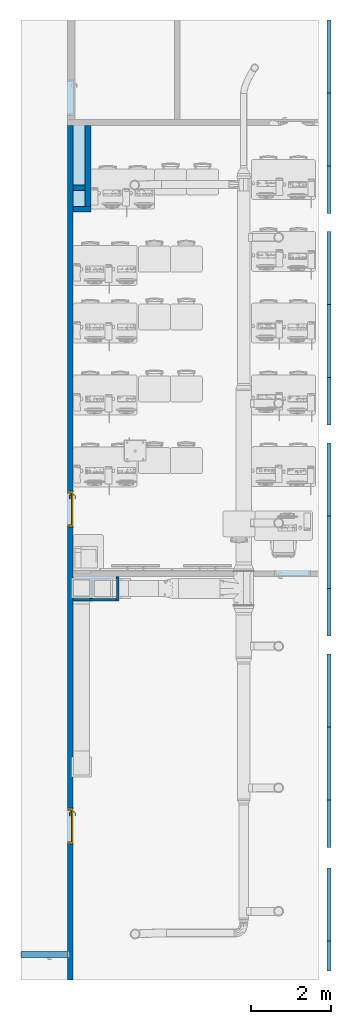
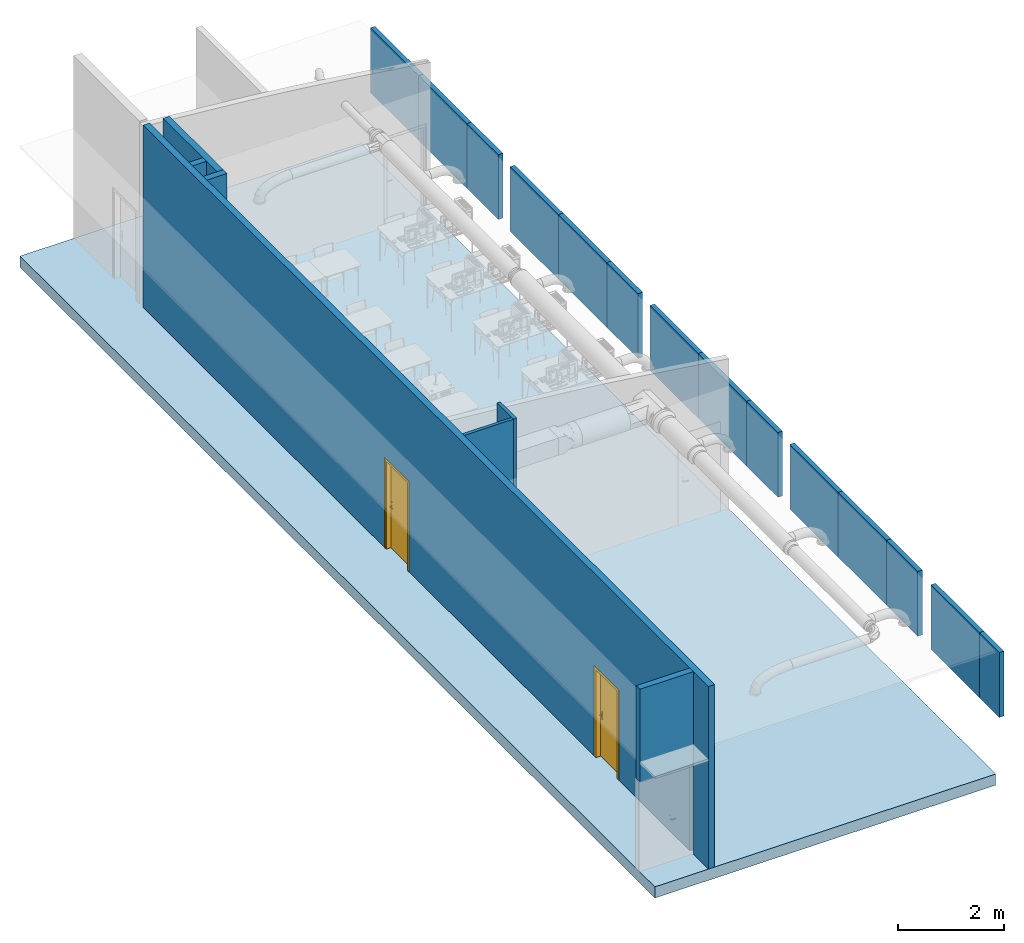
# One storey, part 1 of 31: 14 plates, 7 walls, 2 doors, 1 slab, 5 openings, 5 elements without a shape of their own.
"""IFC2X3 building model written with IfcOpenShell, lengths in millimetres."""

from ifc_helpers import new_model, entity, si_unit, converted_unit, derived_unit, direction, frame, frame_2d, origin, origin_2d_with_axis, place, context, subcontext, project, spatial, rectangle, extrude, faceted_brep, source, transform, mapped, material, material_list, layer, layer_set, layer_usage, type_object, type_shapes, element, fill, aggregate, save


model = new_model("IFC2X3")

# Units and contexts
model_context = context("Model", 3, precision=0.01, world=origin(), true_north=direction((6.123031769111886e-17, 1.0)))
body_context = subcontext(model_context, "Body", "Model", "MODEL_VIEW")
ifc_project = project(units=[si_unit("LENGTHUNIT", "METRE", prefix="MILLI"), si_unit("AREAUNIT", "SQUARE_METRE"), si_unit("VOLUMEUNIT", "CUBIC_METRE"), converted_unit("PLANEANGLEUNIT", "DEGREE", entity("IfcRatioMeasure", 0.017453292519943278), si_unit("PLANEANGLEUNIT", "RADIAN"), dimensions=[0, 0, 0, 0, 0, 0, 0]), si_unit("MASSUNIT", "GRAM", prefix="KILO"), derived_unit("MASSDENSITYUNIT", [(si_unit("MASSUNIT", "GRAM", prefix="KILO"), 1), (si_unit("LENGTHUNIT", "METRE"), -3)]), derived_unit("MOMENTOFINERTIAUNIT", [(si_unit("LENGTHUNIT", "METRE"), 4)]), si_unit("TIMEUNIT", "SECOND"), si_unit("FREQUENCYUNIT", "HERTZ"), si_unit("THERMODYNAMICTEMPERATUREUNIT", "DEGREE_CELSIUS"), derived_unit("THERMALTRANSMITTANCEUNIT", [(si_unit("MASSUNIT", "GRAM", prefix="KILO"), 1), (si_unit("THERMODYNAMICTEMPERATUREUNIT", "KELVIN"), -1), (si_unit("TIMEUNIT", "SECOND"), -3)]), derived_unit("VOLUMETRICFLOWRATEUNIT", [(si_unit("LENGTHUNIT", "METRE"), 3), (si_unit("TIMEUNIT", "SECOND"), -1)]), derived_unit("MASSFLOWRATEUNIT", [(si_unit("MASSUNIT", "GRAM", prefix="KILO"), 1), (si_unit("TIMEUNIT", "SECOND"), -1)]), derived_unit("ROTATIONALFREQUENCYUNIT", [(si_unit("TIMEUNIT", "SECOND"), -1)]), si_unit("ELECTRICCURRENTUNIT", "AMPERE"), si_unit("ELECTRICVOLTAGEUNIT", "VOLT"), si_unit("POWERUNIT", "WATT"), si_unit("FORCEUNIT", "NEWTON", prefix="KILO"), si_unit("ILLUMINANCEUNIT", "LUX"), si_unit("LUMINOUSFLUXUNIT", "LUMEN"), si_unit("LUMINOUSINTENSITYUNIT", "CANDELA"), derived_unit("USERDEFINED", [(si_unit("MASSUNIT", "GRAM", prefix="KILO"), -1), (si_unit("LENGTHUNIT", "METRE"), -2), (si_unit("TIMEUNIT", "SECOND"), 3), (si_unit("LUMINOUSFLUXUNIT", "LUMEN"), 1)]), derived_unit("SOUNDPOWERUNIT", [(si_unit("MASSUNIT", "GRAM", prefix="KILO"), 1), (si_unit("LENGTHUNIT", "METRE"), 2), (si_unit("TIMEUNIT", "SECOND"), -3)]), derived_unit("SOUNDPRESSUREUNIT", [(si_unit("MASSUNIT", "GRAM", prefix="KILO"), 1), (si_unit("LENGTHUNIT", "METRE"), -1), (si_unit("TIMEUNIT", "SECOND"), -2)]), derived_unit("LINEARVELOCITYUNIT", [(si_unit("LENGTHUNIT", "METRE"), 1), (si_unit("TIMEUNIT", "SECOND"), -1)]), si_unit("PRESSUREUNIT", "PASCAL"), derived_unit("USERDEFINED", [(si_unit("LENGTHUNIT", "METRE"), -2), (si_unit("MASSUNIT", "GRAM", prefix="KILO"), 1), (si_unit("TIMEUNIT", "SECOND"), -2)]), derived_unit("LINEARFORCEUNIT", [(si_unit("MASSUNIT", "GRAM", prefix="KILO"), 1), (si_unit("LENGTHUNIT", "METRE"), 1), (si_unit("TIMEUNIT", "SECOND"), -2), (si_unit("LENGTHUNIT", "METRE"), -1)]), derived_unit("PLANARFORCEUNIT", [(si_unit("MASSUNIT", "GRAM", prefix="KILO"), 1), (si_unit("LENGTHUNIT", "METRE"), 1), (si_unit("TIMEUNIT", "SECOND"), -2), (si_unit("LENGTHUNIT", "METRE"), -2)])], contexts=[model_context])

# Site, building, storey
site_placement = place(None, origin())
site = spatial("IfcSite", under=ifc_project, at=site_placement, Name="Default", CompositionType="ELEMENT")
building_placement = place(site_placement, origin())
building = spatial("IfcBuilding", under=site, at=building_placement, CompositionType="ELEMENT")
storey_placement = place(building_placement, frame((0.0, 0.0, 3880.0)))
storey = spatial("IfcBuildingStorey", under=building, at=storey_placement, Name="Niveau 1", CompositionType="ELEMENT", Elevation=3880.0)

# Slab
ifc_material_1 = material(Name="Sol par défaut")
ifc_layer_1 = layer(ifc_material_1, 260.0)
ifc_layer_set_1 = layer_set([ifc_layer_1], Name="Sol:Générique 260 mm")
ifc_layer_usage_1 = layer_usage(ifc_layer_set_1, "AXIS3", "POSITIVE", 0.0)
slab_type = type_object("IfcSlabType", Name="Sol:Générique 260 mm", PredefinedType="FLOOR", material=ifc_layer_set_1)
slab_placement = place(storey_placement, origin())
element("IfcSlab", 1, at=slab_placement, inside=storey, type_object=slab_type, material=ifc_layer_usage_1, Name="Sol:Générique 260 mm", ObjectType="Sol:Générique 260 mm", PredefinedType="FLOOR", context=body_context, shape_type="SweptSolid", body=[
    extrude(rectangle(XDim=24070.000000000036, YDim=7459.999999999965, at=frame_2d((0.0, -1.1368683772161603e-12), x_axis=(1.0, 0.0))), frame((-4050.0, -12355.0, 0.0), z_axis=(0.0, 0.0, -1.0), x_axis=(0.0, 1.0, 0.0)), (0.0, 0.0, 1.0), 259.9999999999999),
])

# Curtain wall, plates
curtain_wall_type = type_object("IfcCurtainWallType", Name="Mur-rideau:Vitrage extérieur", PredefinedType="NOTDEFINED")
curtain_wall_1_placement = place(storey_placement, frame((0.0, 0.0, -3880.0)))
curtain_wall_1 = element("IfcCurtainWall", 2, at=curtain_wall_1_placement, inside=storey, type_object=curtain_wall_type, Name="Mur-rideau:Vitrage extérieur", ObjectType="Mur-rideau:Vitrage extérieur")
ifc_material_2 = material(Name="Verre")
plate_type_1 = type_object("IfcPlateType", Name="Panneau système:Vitré", PredefinedType="CURTAIN_PANEL", material=ifc_material_2)
shared_shape_1 = source(origin(), body_context, "Body", "SweptSolid", [
    extrude(rectangle(XDim=100.0, YDim=1830.0000003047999, at=origin_2d_with_axis()), frame((0.0, 100.0, 0.0), z_axis=(0.0, 0.0, 1.0), x_axis=(0.0, 1.0, 0.0)), (0.0, 0.0, 1.0), 1500.0),
])
type_shapes(plate_type_1, [shared_shape_1])
plate_1_placement = place(curtain_wall_1_placement, frame((-160.0, -1235.0, 4980.0), z_axis=(0.0, 0.0, 1.0), x_axis=(0.0, -1.0, 0.0)))
plate_1 = element("IfcPlate", 3, at=plate_1_placement, type_object=plate_type_1, material=ifc_material_2, Name="Panneau système:Vitré", ObjectType="Panneau système:Vitré", context=body_context, shape_type="MappedRepresentation", body=[
    mapped(shared_shape_1, transform((0.0, 0.0, 0.0), scale=1.0)),
])
plate_2_placement = place(curtain_wall_1_placement, frame((-160.0, -3065.0, 4980.0), z_axis=(0.0, 0.0, 1.0), x_axis=(0.0, -1.0, 0.0)))
plate_2 = element("IfcPlate", 4, at=plate_2_placement, type_object=plate_type_1, material=ifc_material_2, Name="Panneau système:Vitré", ObjectType="Panneau système:Vitré", context=body_context, shape_type="MappedRepresentation", body=[
    mapped(shared_shape_1, transform((0.0, 0.0, 0.0), scale=1.0)),
])

curtain_wall_2_placement = place(storey_placement, frame((0.0, 0.0, -3880.0)))
curtain_wall_2 = element("IfcCurtainWall", 5, at=curtain_wall_2_placement, inside=storey, type_object=curtain_wall_type, Name="Mur-rideau:Vitrage extérieur", ObjectType="Mur-rideau:Vitrage extérieur")
plate_3_placement = place(curtain_wall_2_placement, frame((-160.0, -6535.0, 4980.0), z_axis=(0.0, 0.0, 1.0), x_axis=(0.0, -1.0, 0.0)))
plate_3 = element("IfcPlate", 6, at=plate_3_placement, type_object=plate_type_1, material=ifc_material_2, Name="Panneau système:Vitré", ObjectType="Panneau système:Vitré", context=body_context, shape_type="MappedRepresentation", body=[
    mapped(shared_shape_1, transform((0.0, 0.0, 0.0), scale=1.0)),
])
plate_4_placement = place(curtain_wall_2_placement, frame((-160.0, -8365.0, 4980.0), z_axis=(0.0, 0.0, 1.0), x_axis=(0.0, -1.0, 0.0)))
plate_4 = element("IfcPlate", 7, at=plate_4_placement, type_object=plate_type_1, material=ifc_material_2, Name="Panneau système:Vitré", ObjectType="Panneau système:Vitré", context=body_context, shape_type="MappedRepresentation", body=[
    mapped(shared_shape_1, transform((0.0, 0.0, 0.0), scale=1.0)),
])

curtain_wall_3_placement = place(storey_placement, frame((0.0, 0.0, -3880.0)))
curtain_wall_3 = element("IfcCurtainWall", 8, at=curtain_wall_3_placement, inside=storey, type_object=curtain_wall_type, Name="Mur-rideau:Vitrage extérieur", ObjectType="Mur-rideau:Vitrage extérieur")
plate_5_placement = place(curtain_wall_3_placement, frame((-160.0, -11835.0, 4980.0), z_axis=(0.0, 0.0, 1.0), x_axis=(0.0, -1.0, 0.0)))
plate_5 = element("IfcPlate", 9, at=plate_5_placement, type_object=plate_type_1, material=ifc_material_2, Name="Panneau système:Vitré", ObjectType="Panneau système:Vitré", context=body_context, shape_type="MappedRepresentation", body=[
    mapped(shared_shape_1, transform((0.0, 0.0, 0.0), scale=1.0)),
])
plate_6_placement = place(curtain_wall_3_placement, frame((-160.0, -13665.0, 4980.0), z_axis=(0.0, 0.0, 1.0), x_axis=(0.0, -1.0, 0.0)))
plate_6 = element("IfcPlate", 10, at=plate_6_placement, type_object=plate_type_1, material=ifc_material_2, Name="Panneau système:Vitré", ObjectType="Panneau système:Vitré", context=body_context, shape_type="MappedRepresentation", body=[
    mapped(shared_shape_1, transform((0.0, 0.0, 0.0), scale=1.0)),
])

curtain_wall_4_placement = place(storey_placement, frame((0.0, 0.0, -3880.0)))
curtain_wall_4 = element("IfcCurtainWall", 11, at=curtain_wall_4_placement, inside=storey, type_object=curtain_wall_type, Name="Mur-rideau:Vitrage extérieur", ObjectType="Mur-rideau:Vitrage extérieur")
plate_7_placement = place(curtain_wall_4_placement, frame((-160.0, -17135.0, 4980.0), z_axis=(0.0, 0.0, 1.0), x_axis=(0.0, -1.0, 0.0)))
plate_7 = element("IfcPlate", 12, at=plate_7_placement, type_object=plate_type_1, material=ifc_material_2, Name="Panneau système:Vitré", ObjectType="Panneau système:Vitré", context=body_context, shape_type="MappedRepresentation", body=[
    mapped(shared_shape_1, transform((0.0, 0.0, 0.0), scale=1.0)),
])
plate_8_placement = place(curtain_wall_4_placement, frame((-160.0, -18965.0, 4980.0), z_axis=(0.0, 0.0, 1.0), x_axis=(0.0, -1.0, 0.0)))
plate_8 = element("IfcPlate", 13, at=plate_8_placement, type_object=plate_type_1, material=ifc_material_2, Name="Panneau système:Vitré", ObjectType="Panneau système:Vitré", context=body_context, shape_type="MappedRepresentation", body=[
    mapped(shared_shape_1, transform((0.0, 0.0, 0.0), scale=1.0)),
])

# Curtain wall, plate
curtain_wall_5_placement = place(storey_placement, frame((0.0, 0.0, -3880.0)))
curtain_wall_5 = element("IfcCurtainWall", 14, at=curtain_wall_5_placement, inside=storey, type_object=curtain_wall_type, Name="Mur-rideau:Vitrage extérieur", ObjectType="Mur-rideau:Vitrage extérieur")
plate_9_placement = place(curtain_wall_5_placement, frame((-160.0, -22491.120483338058, 4980.0), z_axis=(0.0, 0.0, 1.0), x_axis=(0.0, -1.0, 0.0)))
plate_9 = element("IfcPlate", 15, at=plate_9_placement, type_object=plate_type_1, material=ifc_material_2, Name="Panneau système:Vitré", ObjectType="Panneau système:Vitré", context=body_context, shape_type="MappedRepresentation", body=[
    mapped(shared_shape_1, transform((0.0, 0.0, 0.0), scale=1.0)),
])

# Plate
plate_type_2 = type_object("IfcPlateType", Name="Panneau système:Vitré", PredefinedType="CURTAIN_PANEL", material=ifc_material_2)
shared_shape_2 = source(origin(), body_context, "Body", "SweptSolid", [
    extrude(rectangle(XDim=100.0, YDim=1189.9999996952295, at=origin_2d_with_axis()), frame((0.0, 100.0, 0.0), z_axis=(0.0, 0.0, 1.0), x_axis=(0.0, 1.0, 0.0)), (0.0, 0.0, 1.0), 1500.0),
])
type_shapes(plate_type_2, [shared_shape_2])
plate_10_placement = place(curtain_wall_1_placement, frame((-160.0, -4575.0, 4980.0), z_axis=(0.0, 0.0, 1.0), x_axis=(0.0, -1.0, 0.0)))
plate_10 = element("IfcPlate", 16, at=plate_10_placement, type_object=plate_type_2, material=ifc_material_2, Name="Panneau système:Vitré", ObjectType="Panneau système:Vitré", context=body_context, shape_type="MappedRepresentation", body=[
    mapped(shared_shape_2, transform((0.0, 0.0, 0.0), scale=1.0)),
])

aggregate(curtain_wall_1, [plate_1, plate_2, plate_10])

plate_11_placement = place(curtain_wall_2_placement, frame((-160.0, -9875.0, 4980.0), z_axis=(0.0, 0.0, 1.0), x_axis=(0.0, -1.0, 0.0)))
plate_11 = element("IfcPlate", 17, at=plate_11_placement, type_object=plate_type_2, material=ifc_material_2, Name="Panneau système:Vitré", ObjectType="Panneau système:Vitré", context=body_context, shape_type="MappedRepresentation", body=[
    mapped(shared_shape_2, transform((0.0, 0.0, 0.0), scale=1.0)),
])

aggregate(curtain_wall_2, [plate_3, plate_4, plate_11])

plate_12_placement = place(curtain_wall_3_placement, frame((-160.0, -15175.0, 4980.0), z_axis=(0.0, 0.0, 1.0), x_axis=(0.0, -1.0, 0.0)))
plate_12 = element("IfcPlate", 18, at=plate_12_placement, type_object=plate_type_2, material=ifc_material_2, Name="Panneau système:Vitré", ObjectType="Panneau système:Vitré", context=body_context, shape_type="MappedRepresentation", body=[
    mapped(shared_shape_2, transform((0.0, 0.0, 0.0), scale=1.0)),
])

aggregate(curtain_wall_3, [plate_5, plate_6, plate_12])

plate_13_placement = place(curtain_wall_4_placement, frame((-160.0, -20475.0, 4980.0), z_axis=(0.0, 0.0, 1.0), x_axis=(0.0, -1.0, 0.0)))
plate_13 = element("IfcPlate", 19, at=plate_13_placement, type_object=plate_type_2, material=ifc_material_2, Name="Panneau système:Vitré", ObjectType="Panneau système:Vitré", context=body_context, shape_type="MappedRepresentation", body=[
    mapped(shared_shape_2, transform((0.0, 0.0, 0.0), scale=1.0)),
])

aggregate(curtain_wall_4, [plate_7, plate_8, plate_13])

plate_type_3 = type_object("IfcPlateType", Name="Panneau système:Vitré", PredefinedType="CURTAIN_PANEL", material=ifc_material_2)
shared_shape_3 = source(origin(), body_context, "Body", "SweptSolid", [
    extrude(rectangle(XDim=100.0, YDim=760.805999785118, at=origin_2d_with_axis()), frame((0.0, 100.0, 0.0), z_axis=(0.0, 0.0, 1.0), x_axis=(0.0, 1.0, 0.0)), (0.0, 0.0, 1.0), 1500.0),
])
type_shapes(plate_type_3, [shared_shape_3])
plate_14_placement = place(curtain_wall_5_placement, frame((-160.0, -23786.523483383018, 4980.0), z_axis=(0.0, 0.0, 1.0), x_axis=(0.0, -1.0, 0.0)))
plate_14 = element("IfcPlate", 20, at=plate_14_placement, type_object=plate_type_3, material=ifc_material_2, Name="Panneau système:Vitré", ObjectType="Panneau système:Vitré", context=body_context, shape_type="MappedRepresentation", body=[
    mapped(shared_shape_3, transform((0.0, 0.0, 0.0), scale=1.0)),
])

aggregate(curtain_wall_5, [plate_9, plate_14])

# Wall, openings, doors
ifc_material_3 = material(Name="Peinture")
ifc_layer_2 = layer(ifc_material_3, 140.0)
ifc_layer_set_2 = layer_set([ifc_layer_2], Name="Mur de base:Générique - 140 mm")
ifc_layer_usage_2 = layer_usage(ifc_layer_set_2, "AXIS2", "POSITIVE", -69.99999999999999)
wall_type_1 = type_object("IfcWallType", Name="Mur de base:Générique - 140 mm", PredefinedType="STANDARD", material=ifc_layer_set_2)
wall_1_placement = place(storey_placement, frame((-6540.0, -2960.0, 0.0), z_axis=(0.0, 0.0, 1.0), x_axis=(0.0, -1.0, 0.0)))
wall_1 = element("IfcWallStandardCase", 21, at=wall_1_placement, inside=storey, type_object=wall_type_1, material=ifc_layer_usage_2, Name="Mur de base:Générique - 140 mm", ObjectType="Mur de base:Générique - 140 mm", context=body_context, shape_type="SweptSolid", body=[
    extrude(rectangle(XDim=21429.999999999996, YDim=139.99999999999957, at=frame_2d((10714.999999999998, 5.400124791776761e-13), x_axis=(1.0, 0.0))), origin(), (0.0, 0.0, 1.0), 4225.000000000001),
])
opening_1_placement = place(wall_1_placement, origin())
element("IfcOpeningElement", 22, at=opening_1_placement, cuts=wall_1, Name="Mur de base:Générique - 140 mm", ObjectType="Opening", context=body_context, shape_type="SweptSolid", body=[
    extrude(rectangle(XDim=2075.000000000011, YDim=139.9999999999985, at=frame_2d((2.1600499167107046e-12, 3.410605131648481e-13), x_axis=(0.0, 1.0))), frame((20790.0, -1250.0, 1037.5000000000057), z_axis=(0.0, 1.0, 0.0), x_axis=(-1.0, 0.0, 0.0)), (0.0, 0.0, 1.0), 1230.0000000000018),
])
opening_2_placement = place(wall_1_placement, frame((17120.0, -70.0, 0.0)))
opening_2 = element("IfcOpeningElement", 23, at=opening_2_placement, cuts=wall_1, Name="Int. Simple:PP (0.83m x 2.04m):1", ObjectType="Opening", context=body_context, shape_type="SweptSolid", body=[
    extrude(rectangle(XDim=2075.0, YDim=900.0000000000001, at=frame_2d((1037.5, 450.00000000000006), x_axis=(1.0, 0.0))), frame((0.0, 0.0, 0.0), z_axis=(0.0, 1.0, 0.0), x_axis=(0.0, 0.0, 1.0)), (0.0, 0.0, 1.0), 139.99999999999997),
])
opening_3_placement = place(wall_1_placement, frame((9170.0, -70.0, 0.0)))
opening_3 = element("IfcOpeningElement", 24, at=opening_3_placement, cuts=wall_1, Name="Int. Simple:PP (0.83m x 2.04m):1", ObjectType="Opening", context=body_context, shape_type="SweptSolid", body=[
    extrude(rectangle(XDim=2075.0, YDim=900.0000000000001, at=frame_2d((1037.5, 450.00000000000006), x_axis=(1.0, 0.0))), frame((0.0, 0.0, 0.0), z_axis=(0.0, 1.0, 0.0), x_axis=(0.0, 0.0, 1.0)), (0.0, 0.0, 1.0), 139.99999999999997),
])
ifc_material_4 = material(Name="Finition Peinture - Blanc satiné")
ifc_material_5 = material(Name="Bois - Panneau de porte")
ifc_material_6 = material(Name="Bois - Cadre de porte")
ifc_material_list_1 = material_list([ifc_material_4, ifc_material_4, ifc_material_4, ifc_material_4, ifc_material_5, ifc_material_6, ifc_material_6, ifc_material_6])
ifc_material_list_2 = material_list([ifc_material_4, ifc_material_4, ifc_material_4, ifc_material_4, ifc_material_5, ifc_material_6, ifc_material_6, ifc_material_6])
door_style = type_object("IfcDoorStyle", Name="Int. Simple:PP (0.83m x 2.04m)", ConstructionType="NOTDEFINED", OperationType="SINGLE_SWING_RIGHT", ParameterTakesPrecedence=False, Sizeable=False, material=ifc_material_list_2)
shared_shape_4 = source(origin(), body_context, "Body", "Brep", [
    faceted_brep([(895.0, -5.0, 870.0), (895.0, -5.0, 1080.0), (885.3527618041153, -5.0, 1083.996016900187), (875.0, -5.0, 1085.3589838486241), (864.6472381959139, -5.0, 1083.9960169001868), (855.0, -5.0, 1080.0), (855.0, -5.0, 870.0), (864.6472381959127, -5.0, 866.003983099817), (875.0, -5.0, 864.6410161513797), (885.3527618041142, -5.0, 866.003983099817), (895.0, 0.0, 1080.0), (895.0, 0.0, 870.0), (885.3527618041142, 0.0, 866.003983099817), (875.0, 0.0, 864.6410161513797), (864.6472381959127, 0.0, 866.003983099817), (855.0, 0.0, 870.0), (855.0, 0.0, 1080.0), (864.6472381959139, 0.0, 1083.9960169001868), (875.0, 0.0, 1085.3589838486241), (885.3527618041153, 0.0, 1083.996016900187)], [[[0, 1, 2, 3, 4, 5, 6, 7, 8, 9]], [[10, 11, 12, 13, 14, 15, 16, 17, 18, 19]], [[9, 12, 11, 0]], [[8, 13, 12, 9]], [[7, 14, 13, 8]], [[7, 6, 15, 14]], [[15, 6, 5, 16]], [[4, 17, 16, 5]], [[3, 18, 17, 4]], [[2, 19, 18, 3]], [[2, 1, 10, 19]], [[11, 10, 1, 0]]]),
    faceted_brep([(895.0, 40.0, 870.0), (895.0, 40.0, 1080.0), (885.3527618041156, 40.0, 1083.9960169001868), (875.0, 40.0, 1085.3589838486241), (864.6472381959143, 40.0, 1083.996016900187), (855.0, 40.0, 1080.0), (855.0, 40.0, 870.0), (864.6472381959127, 40.0, 866.003983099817), (875.0, 40.0, 864.6410161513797), (885.3527618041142, 40.0, 866.0039830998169), (875.0, 45.0, 1085.3589838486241), (885.3527618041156, 45.0, 1083.9960169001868), (895.0, 45.0, 1080.0), (895.0, 45.0, 870.0), (885.3527618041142, 45.0, 866.0039830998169), (875.0, 45.0, 864.6410161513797), (864.6472381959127, 45.0, 866.003983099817), (855.0, 45.0, 870.0), (855.0, 45.0, 1080.0), (864.6472381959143, 45.0, 1083.996016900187)], [[[0, 1, 2, 3, 4, 5, 6, 7, 8, 9]], [[10, 11, 12, 13, 14, 15, 16, 17, 18, 19]], [[4, 19, 18, 5]], [[3, 10, 19, 4]], [[2, 11, 10, 3]], [[2, 1, 12, 11]], [[13, 12, 1, 0]], [[9, 14, 13, 0]], [[8, 15, 14, 9]], [[7, 16, 15, 8]], [[7, 6, 17, 16]], [[17, 6, 5, 18]]]),
    faceted_brep([(872.9747013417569, -5.0, 1007.7804408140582), (877.0252986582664, -5.0, 1007.7804408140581), (881.0, -5.0, 1007.0), (881.0, -5.0, 993.0), (877.0252986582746, -5.0, 992.21955918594), (872.9747013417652, -5.0, 992.2195591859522), (869.0, -5.0, 993.0), (869.0, -5.0, 1007.0), (877.0252986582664, -31.00457549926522, 1007.7804408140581), (881.0, -32.65095070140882, 1007.0), (872.9747013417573, -29.326763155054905, 1007.7804408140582), (859.298602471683, -43.00286202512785, 1007.7804408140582), (860.9764148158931, -47.053459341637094, 1007.7804408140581), (869.0, -27.68038795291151, 1007.0), (869.0, -27.680387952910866, 993.0), (872.9747013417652, -29.326763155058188, 992.2195591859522), (877.0252986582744, -31.004575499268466, 992.21955918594), (860.9764148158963, -47.053459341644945, 992.21955918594), (859.2986024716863, -43.00286202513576, 992.2195591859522), (881.0, -32.650950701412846, 993.0), (862.6227900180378, -51.028160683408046, 1007.0), (857.6522272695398, -39.02816068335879, 1007.0), (857.6522272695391, -39.02816068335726, 993.0), (862.6227900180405, -51.02816068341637, 993.0), (774.9813593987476, -51.0281606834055, 1007.0), (774.9813593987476, -47.05345934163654, 1007.7804408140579), (774.9813593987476, -43.002862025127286, 1007.780440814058), (774.9813593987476, -39.028160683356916, 1007.0), (774.9813593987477, -39.028160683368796, 993.0), (774.9813593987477, -43.00286202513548, 992.219559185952), (774.9813593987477, -47.05345934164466, 992.2195591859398), (774.9813593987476, -51.028160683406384, 993.0), (817.13998091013, -45.028160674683, 1007.878686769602), (822.6923027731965, -51.028160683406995, 1007.0), (816.3167933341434, -39.028160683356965, 1007.0), (816.3167933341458, -39.028160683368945, 993.0), (817.1399811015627, -45.02816075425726, 992.1213132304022), (822.6923104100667, -51.02816068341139, 993.0)], [[[0, 1, 2, 3, 4, 5, 6, 7]], [[2, 1, 8, 9]], [[1, 0, 10, 11, 12, 8]], [[0, 7, 13, 10]], [[14, 13, 7, 6]], [[5, 15, 14, 6]], [[5, 4, 16, 17, 18, 15]], [[3, 19, 16, 4]], [[9, 19, 3, 2]], [[9, 8, 12, 20]], [[10, 13, 21, 11]], [[22, 21, 13, 14]], [[14, 15, 18, 22]], [[16, 19, 23, 17]], [[20, 23, 19, 9]], [[24, 25, 26, 27, 28, 29, 30, 31]], [[32, 25, 33]], [[33, 25, 24]], [[33, 20, 12]], [[11, 34, 32]], [[34, 11, 21]], [[27, 26, 34]], [[32, 26, 25]], [[32, 34, 26]], [[32, 33, 12]], [[11, 32, 12]], [[21, 22, 35, 28, 27, 34]], [[36, 29, 35]], [[30, 36, 37]], [[18, 35, 22]], [[29, 28, 35]], [[30, 37, 31]], [[37, 17, 23]], [[36, 17, 37]], [[36, 18, 17]], [[36, 35, 18]], [[29, 36, 30]], [[23, 20, 33, 24, 31, 37]]]),
    faceted_brep([(872.9747013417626, 45.0, 992.2195591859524), (877.0252986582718, 45.0, 992.2195591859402), (881.0, 45.0, 993.0), (881.0, 45.0, 1007.0), (877.0252986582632, 45.0, 1007.7804408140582), (872.9747013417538, 45.0, 1007.7804408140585), (869.0, 45.0, 1007.0), (869.0, 45.0, 993.0), (869.0, 67.48520450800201, 1007.0), (869.0, 67.48520450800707, 993.0), (872.9747013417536, 69.1315797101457, 1007.7804408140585), (877.0252986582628, 70.80939205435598, 1007.7804408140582), (860.8389061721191, 86.9957845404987, 1007.7804408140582), (859.161093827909, 82.94518722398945, 1007.7804408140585), (881.0, 72.45576725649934, 1007.0), (881.0, 72.45576725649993, 993.0), (877.025298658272, 70.80939205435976, 992.2195591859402), (872.9747013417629, 69.13157971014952, 992.2195591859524), (859.1610938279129, 82.94518722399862, 992.2195591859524), (860.8389061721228, 86.9957845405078, 992.2195591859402), (857.5147186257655, 78.9704858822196, 1007.0), (857.5147186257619, 78.97048588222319, 993.0), (862.4852813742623, 90.9704858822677, 1007.0), (862.4852813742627, 90.97048588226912, 993.0), (774.9542163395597, 82.94518722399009, 1007.7804408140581), (774.9542163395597, 86.99578454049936, 1007.780440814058), (774.9542163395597, 90.9704858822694, 1007.0), (774.9542163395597, 90.97048588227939, 993.0), (774.9542163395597, 86.99578454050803, 992.2195591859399), (774.9542163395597, 82.94518722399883, 992.2195591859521), (774.9542163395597, 78.97048588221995, 993.0), (774.9542163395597, 78.97048588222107, 1007.0), (816.2344674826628, 78.97048588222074, 1007.0), (816.2344794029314, 78.97048588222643, 993.0), (817.0576551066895, 84.97048589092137, 1007.8786867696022), (822.5547942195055, 90.97048588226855, 1007.0), (822.5547956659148, 90.97048588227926, 993.0), (817.0576548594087, 84.97048581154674, 992.1213132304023)], [[[0, 1, 2, 3, 4, 5, 6, 7]], [[8, 9, 7, 6]], [[5, 10, 8, 6]], [[5, 4, 11, 12, 13, 10]], [[3, 14, 11, 4]], [[14, 3, 2, 15]], [[2, 1, 16, 15]], [[1, 0, 17, 18, 19, 16]], [[0, 7, 9, 17]], [[20, 21, 9, 8]], [[8, 10, 13, 20]], [[14, 22, 12, 11]], [[23, 22, 14, 15]], [[15, 16, 19, 23]], [[17, 9, 21, 18]], [[24, 25, 26, 27, 28, 29, 30, 31]], [[21, 20, 32, 31, 30, 33]], [[34, 24, 32]], [[25, 34, 35]], [[13, 32, 20]], [[24, 31, 32]], [[25, 35, 26]], [[35, 12, 22]], [[34, 12, 35]], [[34, 13, 12]], [[34, 32, 13]], [[24, 34, 25]], [[22, 23, 36, 27, 26, 35]], [[37, 28, 36]], [[36, 28, 27]], [[36, 23, 19]], [[18, 33, 37]], [[33, 18, 21]], [[30, 29, 33]], [[37, 29, 28]], [[37, 33, 29]], [[37, 36, 19]], [[18, 37, 19]]]),
    faceted_brep([(935.0, 40.0, 2040.0), (935.0, 40.0, 0.0), (105.0, 40.0, 0.0), (105.0, 40.0, 2040.0), (935.0, 0.0, 2040.0), (105.0, 0.0, 2040.0), (105.0, 0.0, 0.0), (935.0, 0.0, 0.0)], [[[0, 1, 2, 3]], [[4, 5, 6, 7]], [[3, 5, 4, 0]], [[2, 6, 5, 3]], [[1, 7, 6, 2]], [[0, 4, 7, 1]]]),
    faceted_brep([(970.0, 0.0, 0.0), (935.0, 0.0, 0.0), (935.0, 40.0, 0.0), (920.0, 40.0, 0.0), (920.0, 140.0, 0.0), (970.0, 140.0, 0.0), (970.0, 140.0, 2075.0), (970.0, 0.0, 2075.0), (920.0, 140.0, 2025.0), (120.0, 140.0, 2025.0), (120.0, 140.0, 0.0), (70.0, 140.0, 0.0), (70.0, 140.0, 2075.0), (920.0, 40.0, 2025.0), (935.0, 40.0, 2040.0), (105.0, 40.0, 2040.0), (105.0, 40.0, 0.0), (120.0, 40.0, 0.0), (120.0, 40.0, 2025.0), (935.0, 0.0, 2040.0), (70.0, 0.0, 2075.0), (70.0, 0.0, 0.0), (105.0, 0.0, 0.0), (105.0, 0.0, 2040.0)], [[[0, 1, 2, 3, 4, 5]], [[5, 6, 7, 0]], [[4, 8, 9, 10, 11, 12, 6, 5]], [[3, 13, 8, 4]], [[2, 14, 15, 16, 17, 18, 13, 3]], [[1, 19, 14, 2]], [[0, 7, 20, 21, 22, 23, 19, 1]], [[12, 11, 21, 20]], [[21, 11, 10, 17, 16, 22]], [[18, 17, 10, 9]], [[23, 22, 16, 15]], [[6, 12, 20, 7]], [[13, 18, 9, 8]], [[19, 23, 15, 14]]]),
    faceted_brep([(955.0, 140.0, 0.0), (955.0, 145.0, 0.0), (985.0, 145.0, 0.0), (985.0, 140.0, 0.0), (985.0, 140.0, 2090.0), (55.0, 140.0, 2090.0), (55.0, 140.0, 0.0), (85.0, 140.0, 0.0), (85.0, 140.0, 2060.0), (955.0, 140.0, 2060.0), (985.0, 145.0, 2090.0), (955.0, 145.0, 2060.0), (85.0, 145.0, 2060.0), (85.0, 145.0, 0.0), (55.0, 145.0, 0.0), (55.0, 145.0, 2090.0)], [[[0, 1, 2, 3]], [[3, 4, 5, 6, 7, 8, 9, 0]], [[2, 10, 4, 3]], [[1, 11, 12, 13, 14, 15, 10, 2]], [[0, 9, 11, 1]], [[7, 6, 14, 13]], [[8, 7, 13, 12]], [[15, 14, 6, 5]], [[10, 15, 5, 4]], [[9, 8, 12, 11]]]),
    faceted_brep([(985.0, -5.0, 0.0), (985.0, -5.0, 2090.0), (55.0, -5.0, 2090.0), (55.0, -5.0, 0.0), (85.0, -5.0, 0.0), (85.0, -5.0, 2060.0), (955.0, -5.0, 2060.0), (955.0, -5.0, 0.0), (985.0, 0.0, 0.0), (985.0, 0.0, 2090.0), (955.0, 0.0, 0.0), (955.0, 0.0, 2060.0), (85.0, 0.0, 2060.0), (85.0, 0.0, 0.0), (55.0, 0.0, 0.0), (55.0, 0.0, 2090.0)], [[[0, 1, 2, 3, 4, 5, 6, 7]], [[8, 9, 1, 0]], [[10, 11, 12, 13, 14, 15, 9, 8]], [[7, 6, 11, 10]], [[5, 4, 13, 12]], [[15, 14, 3, 2]], [[9, 15, 2, 1]], [[6, 5, 12, 11]], [[4, 3, 14, 13]], [[7, 10, 8, 0]]]),
])
type_shapes(door_style, [shared_shape_4])
door_1_placement = place(opening_2_placement, frame((970.0, 140.0, 0.0), z_axis=(0.0, 0.0, 1.0), x_axis=(-1.0, 0.0, 0.0)))
door_1 = element("IfcDoor", 25, at=door_1_placement, inside=storey, type_object=door_style, material=ifc_material_list_1, Name="Int. Simple:PP (0.83m x 2.04m)", ObjectType="Int. Simple:PP (0.83m x 2.04m)", OverallHeight=2075.0, OverallWidth=899.999999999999, context=body_context, shape_type="MappedRepresentation", body=[
    mapped(shared_shape_4, transform((0.0, 0.0, 0.0), scale=1.0)),
])
fill(opening_2, door_1)
ifc_material_list_3 = material_list([ifc_material_4, ifc_material_5, ifc_material_6])
door_2_placement = place(opening_3_placement, frame((970.0, 140.0, 0.0), z_axis=(0.0, 0.0, 1.0), x_axis=(-1.0, 0.0, 0.0)))
door_2 = element("IfcDoor", 26, at=door_2_placement, inside=storey, type_object=door_style, material=ifc_material_list_3, Name="Int. Simple:PP (0.83m x 2.04m)", ObjectType="Int. Simple:PP (0.83m x 2.04m)", OverallHeight=2075.0, OverallWidth=900.0000000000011, context=body_context, shape_type="MappedRepresentation", body=[
    mapped(shared_shape_4, transform((0.0, 0.0, 0.0), scale=1.0)),
])
fill(opening_3, door_2)

# Wall, opening
ifc_layer_usage_3 = layer_usage(ifc_layer_set_2, "AXIS2", "POSITIVE", -69.99999999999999)
wall_2_placement = place(storey_placement, frame((-7780.0, -23750.0, 2075.0)))
wall_2 = element("IfcWallStandardCase", 27, at=wall_2_placement, inside=storey, type_object=wall_type_1, material=ifc_layer_usage_3, Name="Mur de base:Générique - 140 mm", ObjectType="Mur de base:Générique - 140 mm", context=body_context, shape_type="SweptSolid", body=[
    extrude(rectangle(XDim=1169.9999999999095, YDim=139.9999999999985, at=frame_2d((584.9999999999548, 1.6981971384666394e-12), x_axis=(1.0, 0.0))), origin(), (0.0, 0.0, 1.0), 2149.99999999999),
])
opening_4_placement = place(wall_2_placement, frame((1220.0, 70.0, -2075.0)))
element("IfcOpeningElement", 28, at=opening_4_placement, cuts=wall_2, Name="Int. Double:PP (1.16m x 2.04m):1", ObjectType="Opening", context=body_context, shape_type="SweptSolid", body=[
    extrude(rectangle(XDim=2075.00000000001, YDim=1230.0000000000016, at=frame_2d((1037.5000000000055, 615.000000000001), x_axis=(1.0, 0.0))), frame((0.0, 0.0, 0.0), z_axis=(0.0, -1.0, 0.0), x_axis=(0.0, 0.0, 1.0)), (0.0, 0.0, 1.0), 139.99999999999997),
])

# Walls
ifc_layer_usage_4 = layer_usage(ifc_layer_set_2, "AXIS2", "POSITIVE", -69.99999999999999)
wall_3_placement = place(storey_placement, frame((-6100.0, -2960.0, 0.0), z_axis=(0.0, 0.0, 1.0), x_axis=(0.0, -1.0, 0.0)))
element("IfcWallStandardCase", 29, at=wall_3_placement, inside=storey, type_object=wall_type_1, material=ifc_layer_usage_4, Name="Mur de base:Générique - 140 mm", ObjectType="Mur de base:Générique - 140 mm", context=body_context, shape_type="SweptSolid", body=[
    extrude(rectangle(XDim=2039.99999999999, YDim=140.00000000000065, at=frame_2d((1019.999999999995, 0.0), x_axis=(-1.0, 0.0))), origin(), (0.0, 0.0, 1.0), 4225.000000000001),
])
ifc_layer_usage_5 = layer_usage(ifc_layer_set_2, "AXIS2", "POSITIVE", -69.99999999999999)
wall_4_placement = place(storey_placement, frame((-6030.0, -5070.0, 0.0), z_axis=(0.0, 0.0, 1.0), x_axis=(-1.0, 0.0, 0.0)))
element("IfcWallStandardCase", 30, at=wall_4_placement, inside=storey, type_object=wall_type_1, material=ifc_layer_usage_5, Name="Mur de base:Générique - 140 mm", ObjectType="Mur de base:Générique - 140 mm", context=body_context, shape_type="SweptSolid", body=[
    extrude(rectangle(XDim=440.00000000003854, YDim=140.00000000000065, at=frame_2d((220.00000000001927, 2.5579538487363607e-13), x_axis=(-1.0, 0.0))), origin(), (0.0, 0.0, 1.0), 4225.000000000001),
])
ifc_layer_usage_6 = layer_usage(ifc_layer_set_2, "AXIS2", "POSITIVE", -69.99999999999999)
wall_5_placement = place(storey_placement, frame((-6170.0, -4530.0, 0.0), z_axis=(0.0, 0.0, 1.0), x_axis=(-1.0, 0.0, 0.0)))
element("IfcWallStandardCase", 31, at=wall_5_placement, inside=storey, type_object=wall_type_1, material=ifc_layer_usage_6, Name="Mur de base:Générique - 140 mm", ObjectType="Mur de base:Générique - 140 mm", context=body_context, shape_type="SweptSolid", body=[
    extrude(rectangle(XDim=300.000000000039, YDim=139.99999999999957, at=frame_2d((150.0000000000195, 0.0), x_axis=(-1.0, 0.0))), origin(), (0.0, 0.0, 1.0), 4225.000000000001),
])
ifc_layer_3 = layer(ifc_material_3, 70.0)
ifc_layer_set_3 = layer_set([ifc_layer_3], Name="Mur de base:Générique - 70 mm")
ifc_layer_usage_7 = layer_usage(ifc_layer_set_3, "AXIS2", "POSITIVE", -35.0)
wall_type_2 = type_object("IfcWallType", Name="Mur de base:Générique - 70 mm", PredefinedType="STANDARD", material=ifc_layer_set_3)
wall_6_placement = place(storey_placement, frame((-5355.0, -14270.0, 0.0), z_axis=(0.0, 0.0, 1.0), x_axis=(0.0, -1.0, 0.0)))
element("IfcWallStandardCase", 32, at=wall_6_placement, inside=storey, type_object=wall_type_2, material=ifc_layer_usage_7, Name="Mur de base:Générique - 70 mm", ObjectType="Mur de base:Générique - 70 mm", context=body_context, shape_type="SweptSolid", body=[
    extrude(rectangle(XDim=619.9999999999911, YDim=69.99999999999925, at=frame_2d((309.99999999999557, 7.105427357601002e-14), x_axis=(-1.0, 0.0))), origin(), (0.0, 0.0, 1.0), 4225.000000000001),
])

# Wall, opening
ifc_layer_usage_8 = layer_usage(ifc_layer_set_3, "AXIS2", "POSITIVE", -35.0)
wall_7_placement = place(storey_placement, frame((-5390.0, -14855.0, 0.0), z_axis=(0.0, 0.0, 1.0), x_axis=(-1.0, 0.0, 0.0)))
wall_7 = element("IfcWallStandardCase", 33, at=wall_7_placement, inside=storey, type_object=wall_type_2, material=ifc_layer_usage_8, Name="Mur de base:Générique - 70 mm", ObjectType="Mur de base:Générique - 70 mm", context=body_context, shape_type="SweptSolid", body=[
    extrude(rectangle(XDim=1080.0000000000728, YDim=69.99999999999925, at=frame_2d((540.0000000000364, 1.0800249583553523e-12), x_axis=(-1.0, 0.0))), origin(), (0.0, 0.0, 1.0), 4225.000000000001),
])
opening_5_placement = place(wall_7_placement, origin())
element("IfcOpeningElement", 34, at=opening_5_placement, cuts=wall_7, Name="Mur de base:Générique - 70 mm", ObjectType="Opening", context=body_context, shape_type="SweptSolid", body=[
    extrude(rectangle(XDim=400.00000000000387, YDim=400.0, at=frame_2d((0.0, 2.7000623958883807e-13), x_axis=(0.0, 1.0))), frame((837.2104115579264, -1559.0, 300.0), z_axis=(0.0, 1.0, 0.0), x_axis=(1.0, 0.0, 0.0)), (0.0, 0.0, 1.0), 3048.0),
])

save(model, "model.ifc")
